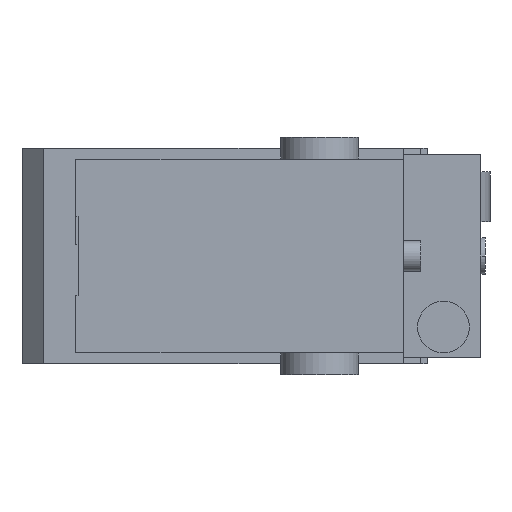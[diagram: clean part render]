
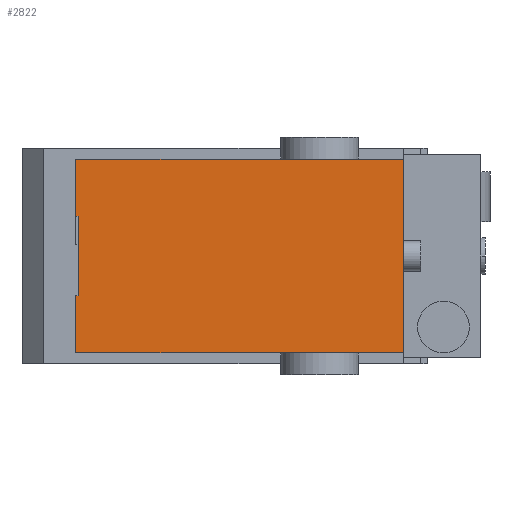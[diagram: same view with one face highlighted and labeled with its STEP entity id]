
A CAD part, front view. The second image highlights one B-rep face of the part: STEP entity #2822.
In plain terms, the highlighted planar face has unit normal (0, -1, 0).
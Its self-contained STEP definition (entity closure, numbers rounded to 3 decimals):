
#212 = EDGE_CURVE ( 'NONE', #2566, #10176, #463, .T. ) ;
#463 = LINE ( 'NONE', #11634, #1180 ) ;
#701 = LINE ( 'NONE', #10527, #9638 ) ;
#767 = DIRECTION ( 'NONE',  ( 1., 0., 0. ) ) ;
#976 = CARTESIAN_POINT ( 'NONE',  ( -34.5, -185.5, -22.5 ) ) ;
#1180 = VECTOR ( 'NONE', #4485, 1000. ) ;
#1378 = VERTEX_POINT ( 'NONE', #11330 ) ;
#1645 = EDGE_CURVE ( 'NONE', #9699, #2944, #1934, .T. ) ;
#1934 = LINE ( 'NONE', #4910, #9554 ) ;
#1961 = LINE ( 'NONE', #976, #7722 ) ;
#2266 = CARTESIAN_POINT ( 'NONE',  ( -34.5, -185.5, 9.25 ) ) ;
#2342 = VERTEX_POINT ( 'NONE', #10494 ) ;
#2566 = VERTEX_POINT ( 'NONE', #11006 ) ;
#2822 = ADVANCED_FACE ( 'NONE', ( #11572 ), #12487, .F. ) ;
#2944 = VERTEX_POINT ( 'NONE', #7808 ) ;
#3088 = EDGE_LOOP ( 'NONE', ( #8882, #4767, #8182, #12458, #5921, #8687, #10787, #6452 ) ) ;
#3407 = CARTESIAN_POINT ( 'NONE',  ( 41.5, -185.5, -22.5 ) ) ;
#3481 = DIRECTION ( 'NONE',  ( 1., 0., 0. ) ) ;
#3496 = CARTESIAN_POINT ( 'NONE',  ( 3.5, -185.5, 0. ) ) ;
#3747 = CARTESIAN_POINT ( 'NONE',  ( -34.5, -185.5, 9.25 ) ) ;
#3842 = EDGE_CURVE ( 'NONE', #10176, #1378, #4156, .T. ) ;
#4156 = LINE ( 'NONE', #2266, #11913 ) ;
#4249 = EDGE_CURVE ( 'NONE', #9086, #2566, #701, .T. ) ;
#4334 = LINE ( 'NONE', #12201, #7934 ) ;
#4485 = DIRECTION ( 'NONE',  ( -1., 0., 0. ) ) ;
#4695 = EDGE_CURVE ( 'NONE', #12348, #9699, #6467, .T. ) ;
#4767 = ORIENTED_EDGE ( 'NONE', *, *, #1645, .F. ) ;
#4910 = CARTESIAN_POINT ( 'NONE',  ( -34.5, -185.5, -22.5 ) ) ;
#4932 = DIRECTION ( 'NONE',  ( 0., 0., 1. ) ) ;
#5105 = CARTESIAN_POINT ( 'NONE',  ( 41.5, -185.5, 22.5 ) ) ;
#5694 = CARTESIAN_POINT ( 'NONE',  ( -34.5, -185.5, 22.5 ) ) ;
#5921 = ORIENTED_EDGE ( 'NONE', *, *, #3842, .F. ) ;
#6452 = ORIENTED_EDGE ( 'NONE', *, *, #12536, .F. ) ;
#6467 = LINE ( 'NONE', #3407, #6749 ) ;
#6749 = VECTOR ( 'NONE', #12525, 1000. ) ;
#7406 = CARTESIAN_POINT ( 'NONE',  ( 41.5, -185.5, -22.5 ) ) ;
#7480 = DIRECTION ( 'NONE',  ( 0., 1., 0. ) ) ;
#7722 = VECTOR ( 'NONE', #4932, 1000. ) ;
#7808 = CARTESIAN_POINT ( 'NONE',  ( -34.5, -185.5, -22.5 ) ) ;
#7934 = VECTOR ( 'NONE', #3481, 1000. ) ;
#8182 = ORIENTED_EDGE ( 'NONE', *, *, #4695, .F. ) ;
#8408 = DIRECTION ( 'NONE',  ( 0., 0., 1. ) ) ;
#8481 = CARTESIAN_POINT ( 'NONE',  ( -34., -185.5, -9.25 ) ) ;
#8532 = VECTOR ( 'NONE', #767, 1000. ) ;
#8595 = DIRECTION ( 'NONE',  ( 0., 0., 1. ) ) ;
#8663 = LINE ( 'NONE', #5694, #8532 ) ;
#8687 = ORIENTED_EDGE ( 'NONE', *, *, #212, .F. ) ;
#8882 = ORIENTED_EDGE ( 'NONE', *, *, #9628, .F. ) ;
#8974 = DIRECTION ( 'NONE',  ( -1., 0., 0. ) ) ;
#9086 = VERTEX_POINT ( 'NONE', #8481 ) ;
#9554 = VECTOR ( 'NONE', #8974, 1000. ) ;
#9628 = EDGE_CURVE ( 'NONE', #2944, #2342, #1961, .T. ) ;
#9638 = VECTOR ( 'NONE', #8595, 1000. ) ;
#9699 = VERTEX_POINT ( 'NONE', #7406 ) ;
#9913 = EDGE_CURVE ( 'NONE', #1378, #12348, #8663, .T. ) ;
#10176 = VERTEX_POINT ( 'NONE', #3747 ) ;
#10494 = CARTESIAN_POINT ( 'NONE',  ( -34.5, -185.5, -9.25 ) ) ;
#10527 = CARTESIAN_POINT ( 'NONE',  ( -34., -185.5, -9.25 ) ) ;
#10787 = ORIENTED_EDGE ( 'NONE', *, *, #4249, .F. ) ;
#11006 = CARTESIAN_POINT ( 'NONE',  ( -34., -185.5, 9.25 ) ) ;
#11254 = AXIS2_PLACEMENT_3D ( 'NONE', #3496, #7480, #11450 ) ;
#11330 = CARTESIAN_POINT ( 'NONE',  ( -34.5, -185.5, 22.5 ) ) ;
#11450 = DIRECTION ( 'NONE',  ( 0., 0., 1. ) ) ;
#11572 = FACE_OUTER_BOUND ( 'NONE', #3088, .T. ) ;
#11634 = CARTESIAN_POINT ( 'NONE',  ( -34.5, -185.5, 9.25 ) ) ;
#11913 = VECTOR ( 'NONE', #8408, 1000. ) ;
#12201 = CARTESIAN_POINT ( 'NONE',  ( -34.5, -185.5, -9.25 ) ) ;
#12348 = VERTEX_POINT ( 'NONE', #5105 ) ;
#12458 = ORIENTED_EDGE ( 'NONE', *, *, #9913, .F. ) ;
#12487 = PLANE ( 'NONE',  #11254 ) ;
#12525 = DIRECTION ( 'NONE',  ( 0., 0., -1. ) ) ;
#12536 = EDGE_CURVE ( 'NONE', #2342, #9086, #4334, .T. ) ;
